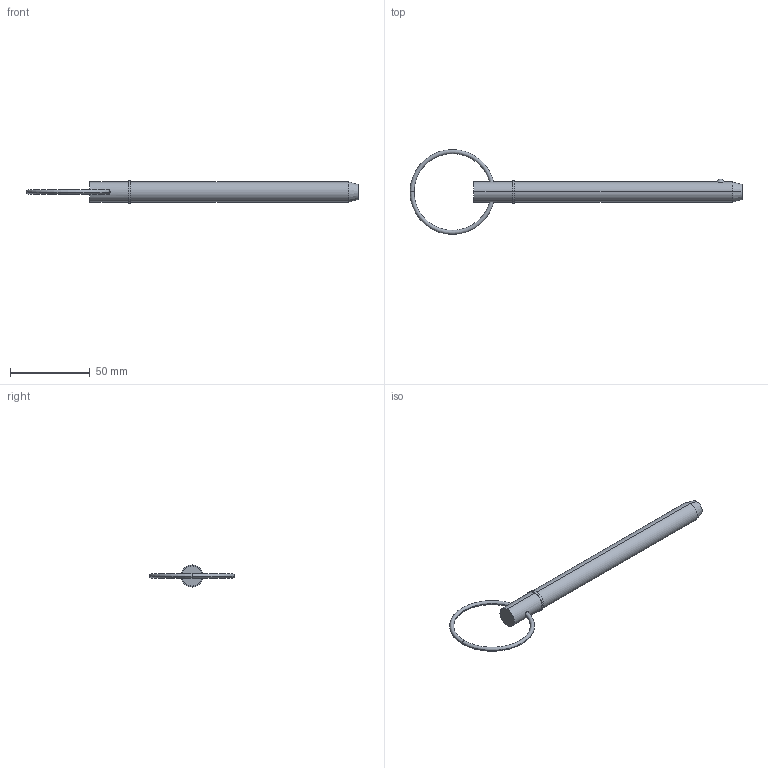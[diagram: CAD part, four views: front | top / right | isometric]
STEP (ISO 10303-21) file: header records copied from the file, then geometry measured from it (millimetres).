
FILE_DESCRIPTION (( 'STEP AP203' ), '1' );
FILE_NAME ('33016.W5050.step', '2024-11-07T11:09:39', ( '' ), ( '' ), 'SwSTEP 2.0', 'SolidWorks 2019', '' );
FILE_SCHEMA (( 'CONFIG_CONTROL_DESIGN' ));
Length unit declared in the file: millimetre
Products named in the file (3): Part1_33016.W5050; 33016.W5050; Part2_33016.W5050
Assembly tree (2 placements, depth 2):
  33016.W5050
    Part1_33016.W5050
    Part2_33016.W5050
Bounding box: 208.63 x 53.34 x 13.97 mm (x, y, z)
Volume: 21945 mm3; surface area: 8355.5 mm2
Topology: 2 solids, 2 shells, 22 faces, 43 edges, 26 vertices
Faces by surface type: torus 8, cylinder 6, plane 4, sphere 2, cone 2
Entity records: 1039 total; most frequent: CARTESIAN_POINT 262, DIRECTION 120, ORIENTED_EDGE 86, AXIS2_PLACEMENT_3D 56, EDGE_CURVE 43, CIRCLE 29, EDGE_LOOP 27, VERTEX_POINT 26
